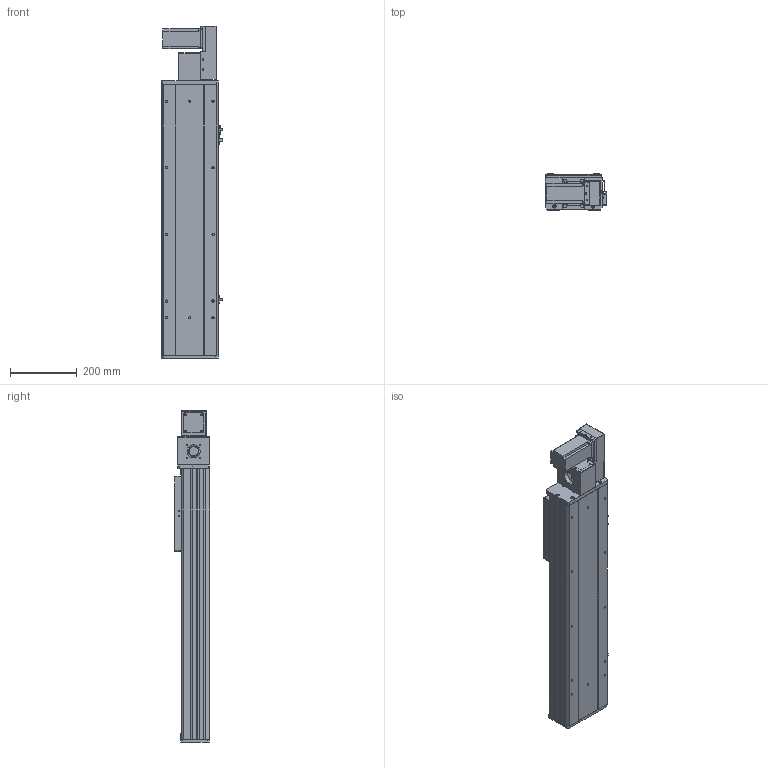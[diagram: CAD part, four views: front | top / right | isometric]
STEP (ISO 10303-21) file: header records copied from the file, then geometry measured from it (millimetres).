
FILE_DESCRIPTION (( 'STEP AP203' ), '1' );
FILE_NAME ('Y170CB-D105-S500-BR-P400W.STEP', '2020-02-19T08:44:54', ( '微软用户' ), ( '微软中国' ), 'SwSTEP 2.0', 'SolidWorks 2017', '' );
FILE_SCHEMA (( 'CONFIG_CONTROL_DESIGN' ));
Length unit declared in the file: millimetre
Products named in the file (17): 70B喘謫眊----; B-源倛裔啣; 17B-耜蚾蟀諉啣----; 0B-萇儂楊擘啣; san松下电机400不带刹车----; Y70俋欶BR----; 70CB-掛极-; --70CB --喘謫眊楊擘啣-; 70CB-耜裔啣-; 70C--詩湍揤踡え-; 70CB--耜裔; 70C-雄赽釱-奻-; 0C--雄赽釱俋欶-170; 70CB-詩湍--; Y100-135俋离換覜ん--; Y170CB-陔俋离換覜結え---; Y170CB-D105-S500-BR-P400W
Assembly tree (20 placements, depth 2):
  Y170CB-D105-S500-BR-P400W
    70B喘謫眊----
    B-源倛裔啣
    17B-耜蚾蟀諉啣----
    0B-萇儂楊擘啣
    san松下电机400不带刹车----
    Y70俋欶BR----
    70CB-掛极-
    --70CB --喘謫眊楊擘啣-
    70CB-耜裔啣-  x2
    70C--詩湍揤踡え-  x2
    70CB--耜裔
    70C-雄赽釱-奻-
    0C--雄赽釱俋欶-170
    70CB-詩湍--
    Y100-135俋离換覜ん--  x3
    Y170CB-陔俋离換覜結え---
Bounding box: 183.5 x 107 x 997 mm (x, y, z)
Volume: 4563072.9 mm3; surface area: 1617113.8 mm2
Topology: 20 solids, 20 shells, 977 faces, 2609 edges, 1730 vertices
Faces by surface type: cylinder 491, plane 462, cone 24
Entity records: 30875 total; most frequent: CARTESIAN_POINT 5661, DIRECTION 5020, ORIENTED_EDGE 4700, EDGE_CURVE 2350, AXIS2_PLACEMENT_3D 1825, VERTEX_POINT 1560, VECTOR 1370, LINE 1370
